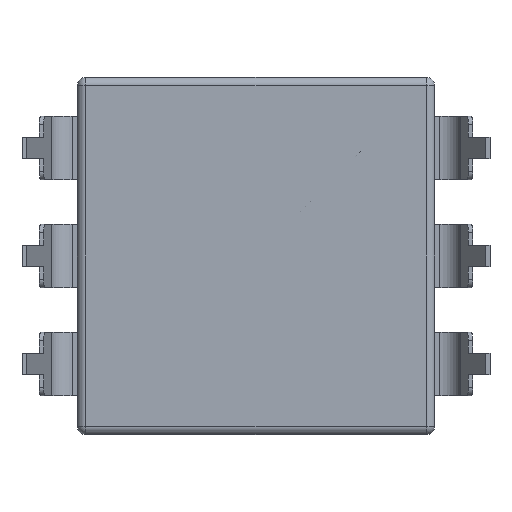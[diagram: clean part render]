
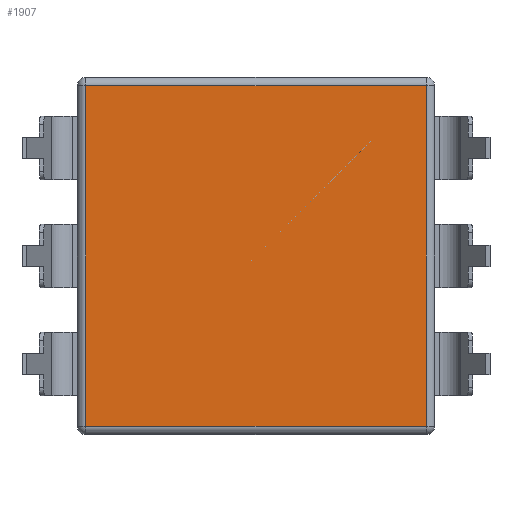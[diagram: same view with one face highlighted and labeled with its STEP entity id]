
A CAD part, front view. The second image highlights one B-rep face of the part: STEP entity #1907.
In plain terms, the highlighted planar face has unit normal (0, -1, 0).
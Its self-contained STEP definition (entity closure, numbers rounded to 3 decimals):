
#176 = ORIENTED_EDGE ( 'NONE', *, *, #547, .T. ) ;
#534 = EDGE_CURVE ( 'NONE', #1359, #1360, #4517, .T. ) ;
#547 = EDGE_CURVE ( 'NONE', #1349, #1352, #4552, .T. ) ;
#559 = EDGE_CURVE ( 'NONE', #1352, #1359, #4561, .T. ) ;
#562 = EDGE_CURVE ( 'NONE', #1360, #1349, #4598, .T. ) ;
#1100 = EDGE_LOOP ( 'NONE', ( #176, #5938, #6038, #6057 ) ) ;
#1349 = VERTEX_POINT ( 'NONE', #4770 ) ;
#1352 = VERTEX_POINT ( 'NONE', #4773 ) ;
#1359 = VERTEX_POINT ( 'NONE', #4780 ) ;
#1360 = VERTEX_POINT ( 'NONE', #4781 ) ;
#1907 = ADVANCED_FACE ( 'NONE', ( #5754 ), #5748, .T. ) ;
#4382 = VECTOR ( 'NONE', #4519, 1000. ) ;
#4397 = VECTOR ( 'NONE', #4556, 1000. ) ;
#4416 = VECTOR ( 'NONE', #4591, 1000. ) ;
#4420 = VECTOR ( 'NONE', #4600, 1000. ) ;
#4517 = LINE ( 'NONE', #4518, #4382 ) ;
#4518 = CARTESIAN_POINT ( 'NONE',  ( 4., 0., 4.2 ) ) ;
#4519 = DIRECTION ( 'NONE',  ( 0., 0., 1. ) ) ;
#4527 = CARTESIAN_POINT ( 'NONE',  ( -4., 0., -4.2 ) ) ;
#4552 = LINE ( 'NONE', #4527, #4397 ) ;
#4556 = DIRECTION ( 'NONE',  ( 0., 0., -1. ) ) ;
#4561 = LINE ( 'NONE', #4583, #4416 ) ;
#4583 = CARTESIAN_POINT ( 'NONE',  ( 4.2, 0., -4. ) ) ;
#4591 = DIRECTION ( 'NONE',  ( 1., 0., 0. ) ) ;
#4598 = LINE ( 'NONE', #4599, #4420 ) ;
#4599 = CARTESIAN_POINT ( 'NONE',  ( -4.2, 0., 4. ) ) ;
#4600 = DIRECTION ( 'NONE',  ( -1., 0., 0. ) ) ;
#4770 = CARTESIAN_POINT ( 'NONE',  ( -4., 0., 4. ) ) ;
#4773 = CARTESIAN_POINT ( 'NONE',  ( -4., 0., -4. ) ) ;
#4780 = CARTESIAN_POINT ( 'NONE',  ( 4., 0., -4. ) ) ;
#4781 = CARTESIAN_POINT ( 'NONE',  ( 4., 0., 4. ) ) ;
#5265 = AXIS2_PLACEMENT_3D ( 'NONE', #5750, #5756, #5757 ) ;
#5748 = PLANE ( 'NONE',  #5265 ) ;
#5750 = CARTESIAN_POINT ( 'NONE',  ( 4.2, 0., -4.2 ) ) ;
#5754 = FACE_OUTER_BOUND ( 'NONE', #1100, .T. ) ;
#5756 = DIRECTION ( 'NONE',  ( 0., -1., 0. ) ) ;
#5757 = DIRECTION ( 'NONE',  ( 0., 0., -1. ) ) ;
#5938 = ORIENTED_EDGE ( 'NONE', *, *, #559, .T. ) ;
#6038 = ORIENTED_EDGE ( 'NONE', *, *, #534, .T. ) ;
#6057 = ORIENTED_EDGE ( 'NONE', *, *, #562, .T. ) ;
